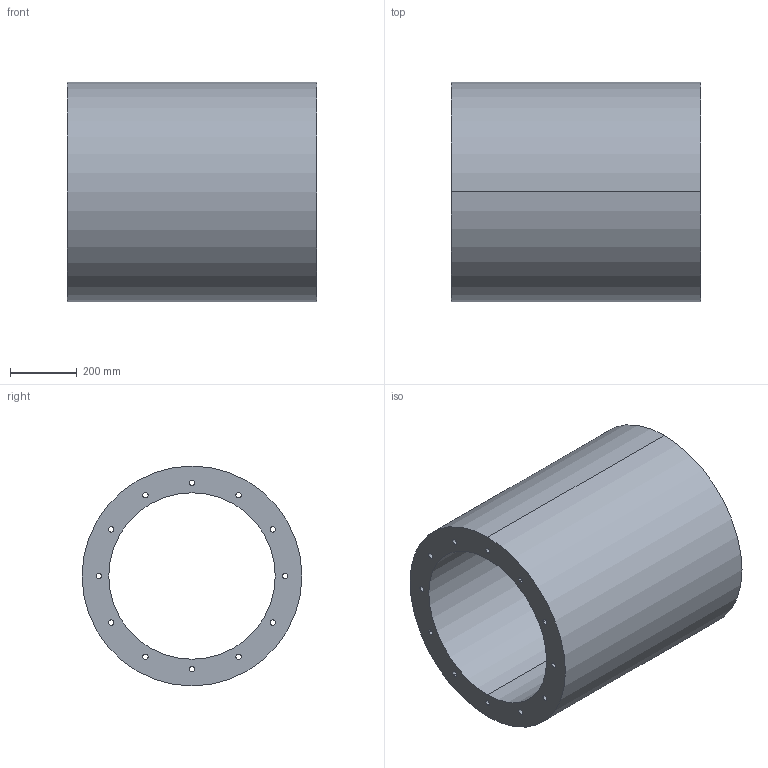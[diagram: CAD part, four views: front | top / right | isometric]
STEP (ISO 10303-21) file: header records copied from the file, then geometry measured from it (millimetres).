
FILE_DESCRIPTION(('STEP AP214'),'1');
FILE_NAME('accessory_5211810700.stp','2017-10-09T11:37:11',('TraceParts'),('TraceParts S.A.'),'Spatial InterOp 3D',' ',' ');
FILE_SCHEMA(('automotive_design'));
Length unit declared in the file: millimetre
Products named in the file (1): accessory_5211810700
Bounding box: 750 x 660 x 660 mm (x, y, z)
Volume: 107517867 mm3; surface area: 3472289.3 mm2
Topology: 1 solids, 1 shells, 30 faces, 84 edges, 56 vertices
Faces by surface type: cylinder 28, plane 2
Entity records: 1312 total; most frequent: DIRECTION 202, CARTESIAN_POINT 171, ORIENTED_EDGE 168, AXIS2_PLACEMENT_3D 87, EDGE_CURVE 84, EDGE_LOOP 56, VERTEX_POINT 56, CIRCLE 56
